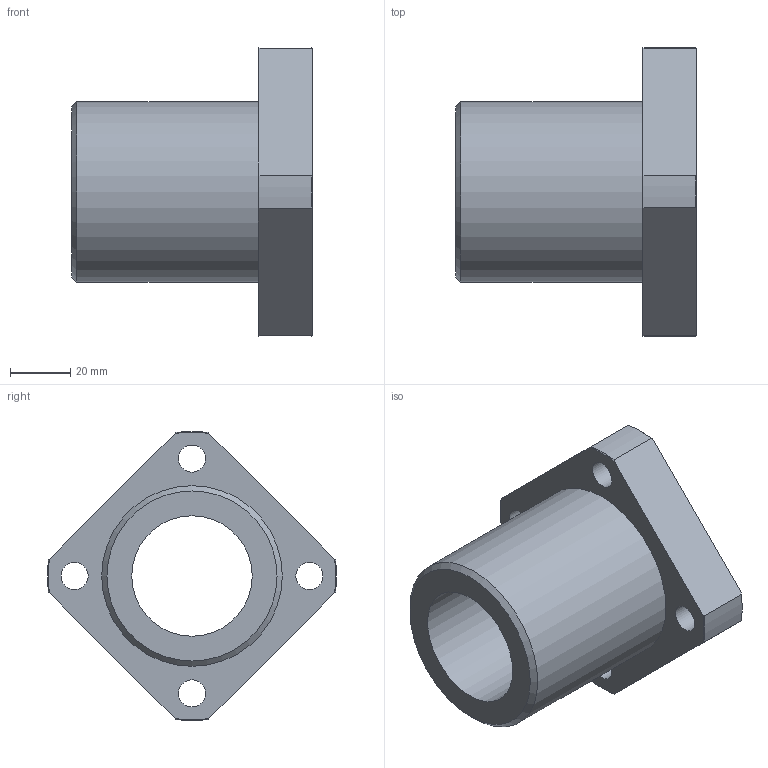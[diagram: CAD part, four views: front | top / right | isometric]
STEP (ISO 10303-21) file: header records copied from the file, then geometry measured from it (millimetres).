
FILE_DESCRIPTION(('STEP AP203'),'1');
FILE_NAME('//192.168.1.1/share/s-4 技術開発/s-4-4_CAD/s-4-4-3_見直し済み/PBC LINEAR修正済み/3D途中/SFPJ/SFPJ/SFPJ40.step','2022-03-24T05:48:34',(' '),(' '),'Spatial InterOp 3D',' ',' ');
FILE_SCHEMA(('CONFIG_CONTROL_DESIGN'));
Length unit declared in the file: millimetre
Products named in the file (1): 1
Bounding box: 80 x 95.93 x 95.93 mm (x, y, z)
Volume: 166333.9 mm3; surface area: 37175.1 mm2
Topology: 1 solids, 1 shells, 34 faces, 84 edges, 57 vertices
Faces by surface type: cylinder 14, plane 11, cone 9
Full cylindrical faces by diameter (mm): 9 x4, 14 x4, 40 x1, 60 x1
Entity records: 1018 total; most frequent: CARTESIAN_POINT 205, DIRECTION 160, ORIENTED_EDGE 138, AXIS2_PLACEMENT_3D 72, EDGE_CURVE 69, EDGE_LOOP 60, VERTEX_POINT 53, FACE_OUTER_BOUND 44
